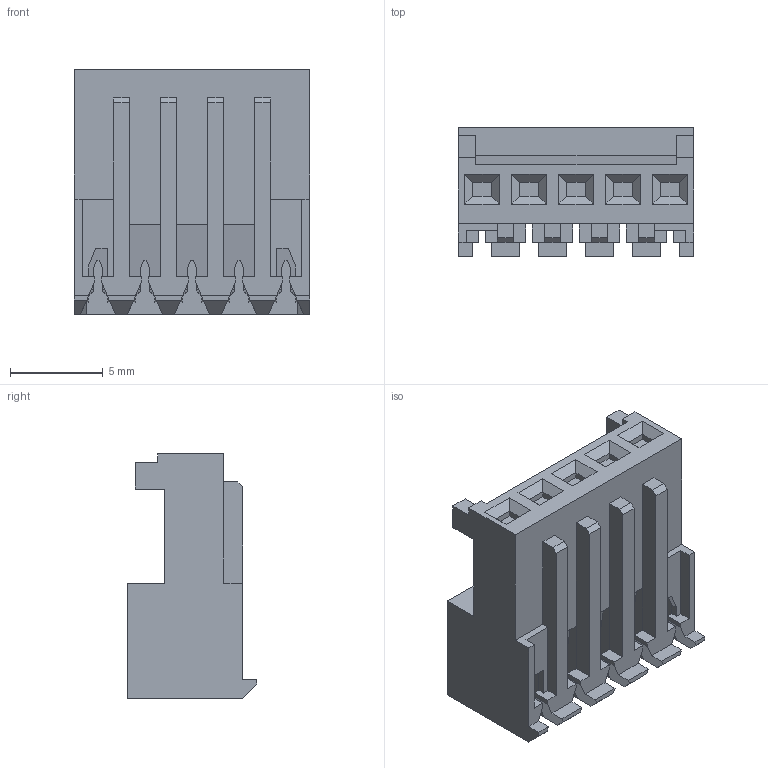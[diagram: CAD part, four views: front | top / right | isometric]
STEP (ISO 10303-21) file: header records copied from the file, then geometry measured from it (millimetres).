
FILE_DESCRIPTION (( 'STEP AP214' ), '1' );
FILE_NAME ('33135r1.STEP', '2011-07-11T14:02:02', ( 'Vicor User' ), ( 'Microsoft' ), 'SwSTEP 2.0', 'SolidWorks 2010', '' );
FILE_SCHEMA (( 'AUTOMOTIVE_DESIGN' ));
Length unit declared in the file: inch
Products named in the file (1): 33135r1
Bounding box: 12.7 x 6.99 x 13.21 mm (x, y, z)
Volume: 557 mm3; surface area: 1315.7 mm2
Topology: 1 solids, 1 shells, 434 faces, 1285 edges, 844 vertices
Faces by surface type: plane 414, cylinder 20
Entity records: 14295 total; most frequent: CARTESIAN_POINT 2684, ORIENTED_EDGE 2570, DIRECTION 2185, EDGE_CURVE 1285, LINE 1175, VECTOR 1175, VERTEX_POINT 844, AXIS2_PLACEMENT_3D 505
